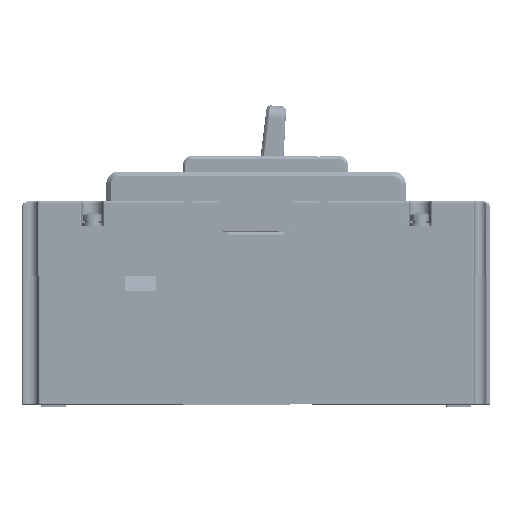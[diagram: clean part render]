
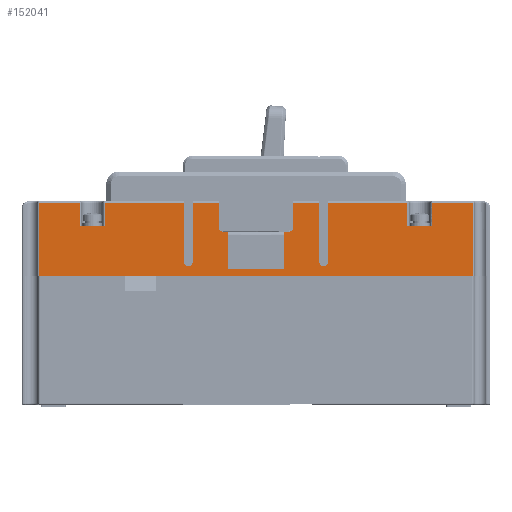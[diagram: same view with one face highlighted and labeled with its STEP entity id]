
A CAD part, left-side view. The second image highlights one B-rep face of the part: STEP entity #152041.
In plain terms, the highlighted planar face has unit normal (-1, 0, 0).
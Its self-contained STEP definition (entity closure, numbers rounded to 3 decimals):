
#119510=DIRECTION('',(0.,-1.,0.));
#119511=VECTOR('',#119510,8.);
#119512=CARTESIAN_POINT('',(-46.,56.5,16.));
#119513=LINE('',#119512,#119511);
#119514=CARTESIAN_POINT('',(-46.,21.7,4.5));
#119515=DIRECTION('',(-1.,0.,0.));
#119516=DIRECTION('',(0.,1.,0.));
#119517=AXIS2_PLACEMENT_3D('',#119514,#119515,#119516);
#119519=DIRECTION('',(0.,0.,1.));
#119520=VECTOR('',#119519,18.8);
#119521=CARTESIAN_POINT('',(-46.,20.2,4.5));
#119522=LINE('',#119521,#119520);
#119523=CARTESIAN_POINT('',(-46.,10.5,15.5));
#119524=DIRECTION('',(-1.,0.,0.));
#119525=DIRECTION('',(0.,1.,0.));
#119526=AXIS2_PLACEMENT_3D('',#119523,#119524,#119525);
#119528=DIRECTION('',(0.,-1.,0.));
#119529=VECTOR('',#119528,1.6);
#119530=CARTESIAN_POINT('',(-46.,10.5,14.));
#119531=LINE('',#119530,#119529);
#119532=DIRECTION('',(0.,0.,-1.));
#119533=VECTOR('',#119532,12.);
#119534=CARTESIAN_POINT('',(-46.,8.9,14.));
#119535=LINE('',#119534,#119533);
#119536=DIRECTION('',(0.,-1.,0.));
#119537=VECTOR('',#119536,17.8);
#119538=CARTESIAN_POINT('',(-46.,8.9,2.));
#119539=LINE('',#119538,#119537);
#119540=DIRECTION('',(0.,-1.,0.));
#119541=VECTOR('',#119540,1.6);
#119542=CARTESIAN_POINT('',(-46.,-8.9,14.));
#119543=LINE('',#119542,#119541);
#119544=CARTESIAN_POINT('',(-46.,-10.5,15.5));
#119545=DIRECTION('',(-1.,0.,0.));
#119546=DIRECTION('',(0.,0.,-1.));
#119547=AXIS2_PLACEMENT_3D('',#119544,#119545,#119546);
#119549=DIRECTION('',(0.,0.,1.));
#119550=VECTOR('',#119549,7.8);
#119551=CARTESIAN_POINT('',(-46.,-12.,15.5));
#119552=LINE('',#119551,#119550);
#119553=CARTESIAN_POINT('',(-46.,-21.7,4.5));
#119554=DIRECTION('',(-1.,0.,0.));
#119555=DIRECTION('',(0.,1.,0.));
#119556=AXIS2_PLACEMENT_3D('',#119553,#119554,#119555);
#119558=DIRECTION('',(0.,0.,1.));
#119559=VECTOR('',#119558,18.8);
#119560=CARTESIAN_POINT('',(-46.,-23.2,4.5));
#119561=LINE('',#119560,#119559);
#119562=DIRECTION('',(0.,-1.,0.));
#119563=VECTOR('',#119562,8.);
#119564=CARTESIAN_POINT('',(-46.,-48.5,16.));
#119565=LINE('',#119564,#119563);
#119861=DIRECTION('',(0.,-1.,0.));
#119862=VECTOR('',#119861,139.101);
#119863=CARTESIAN_POINT('',(-46.,69.551,0.));
#119864=LINE('',#119863,#119862);
#128402=DIRECTION('',(0.,0.,-1.));
#128403=VECTOR('',#128402,23.3);
#128404=CARTESIAN_POINT('',(-46.,69.551,23.3));
#128405=LINE('',#128404,#128403);
#133319=DIRECTION('',(0.,0.,1.));
#133320=VECTOR('',#133319,7.8);
#133321=CARTESIAN_POINT('',(-46.,12.,15.5));
#133322=LINE('',#133321,#133320);
#133328=DIRECTION('',(0.,1.,0.));
#133329=VECTOR('',#133328,8.2);
#133330=CARTESIAN_POINT('',(-46.,12.,23.3));
#133331=LINE('',#133330,#133329);
#133358=DIRECTION('',(0.,0.,1.));
#133359=VECTOR('',#133358,18.8);
#133360=CARTESIAN_POINT('',(-46.,23.2,4.5));
#133361=LINE('',#133360,#133359);
#133362=DIRECTION('',(0.,1.,0.));
#133363=VECTOR('',#133362,25.3);
#133364=CARTESIAN_POINT('',(-46.,23.2,23.3));
#133365=LINE('',#133364,#133363);
#133385=DIRECTION('',(0.,0.,-1.));
#133386=VECTOR('',#133385,7.3);
#133387=CARTESIAN_POINT('',(-46.,48.5,23.3));
#133388=LINE('',#133387,#133386);
#133504=DIRECTION('',(0.,0.,1.));
#133505=VECTOR('',#133504,7.3);
#133506=CARTESIAN_POINT('',(-46.,56.5,16.));
#133507=LINE('',#133506,#133505);
#133512=DIRECTION('',(0.,1.,0.));
#133513=VECTOR('',#133512,13.051);
#133514=CARTESIAN_POINT('',(-46.,56.5,23.3));
#133515=LINE('',#133514,#133513);
#133580=DIRECTION('',(0.,1.,0.));
#133581=VECTOR('',#133580,8.2);
#133582=CARTESIAN_POINT('',(-46.,-20.2,23.3));
#133583=LINE('',#133582,#133581);
#133593=DIRECTION('',(0.,0.,1.));
#133594=VECTOR('',#133593,18.8);
#133595=CARTESIAN_POINT('',(-46.,-20.2,4.5));
#133596=LINE('',#133595,#133594);
#133623=DIRECTION('',(0.,1.,0.));
#133624=VECTOR('',#133623,25.3);
#133625=CARTESIAN_POINT('',(-46.,-48.5,23.3));
#133626=LINE('',#133625,#133624);
#133646=DIRECTION('',(0.,0.,1.));
#133647=VECTOR('',#133646,7.3);
#133648=CARTESIAN_POINT('',(-46.,-48.5,16.));
#133649=LINE('',#133648,#133647);
#133709=DIRECTION('',(0.,0.,-1.));
#133710=VECTOR('',#133709,7.3);
#133711=CARTESIAN_POINT('',(-46.,-56.5,23.3));
#133712=LINE('',#133711,#133710);
#133806=DIRECTION('',(0.,1.,0.));
#133807=VECTOR('',#133806,13.051);
#133808=CARTESIAN_POINT('',(-46.,-69.551,23.3));
#133809=LINE('',#133808,#133807);
#133833=DIRECTION('',(0.,0.,1.));
#133834=VECTOR('',#133833,23.3);
#133835=CARTESIAN_POINT('',(-46.,-69.551,0.));
#133836=LINE('',#133835,#133834);
#136677=DIRECTION('',(0.,0.,-1.));
#136678=VECTOR('',#136677,12.);
#136679=CARTESIAN_POINT('',(-46.,-8.9,14.));
#136680=LINE('',#136679,#136678);
#145006=CARTESIAN_POINT('',(-46.,69.551,0.));
#145007=CARTESIAN_POINT('',(-46.,-69.551,0.));
#145008=VERTEX_POINT('',#145006);
#145009=VERTEX_POINT('',#145007);
#145010=CARTESIAN_POINT('',(-46.,69.551,23.3));
#145011=VERTEX_POINT('',#145010);
#145012=CARTESIAN_POINT('',(-46.,56.5,23.3));
#145013=VERTEX_POINT('',#145012);
#145014=CARTESIAN_POINT('',(-46.,56.5,16.));
#145015=VERTEX_POINT('',#145014);
#145016=CARTESIAN_POINT('',(-46.,48.5,16.));
#145017=VERTEX_POINT('',#145016);
#145018=CARTESIAN_POINT('',(-46.,48.5,23.3));
#145019=VERTEX_POINT('',#145018);
#145020=CARTESIAN_POINT('',(-46.,23.2,23.3));
#145021=VERTEX_POINT('',#145020);
#145022=CARTESIAN_POINT('',(-46.,23.2,4.5));
#145023=VERTEX_POINT('',#145022);
#145024=CARTESIAN_POINT('',(-46.,20.2,4.5));
#145025=VERTEX_POINT('',#145024);
#145026=CARTESIAN_POINT('',(-46.,20.2,23.3));
#145027=VERTEX_POINT('',#145026);
#145028=CARTESIAN_POINT('',(-46.,12.,23.3));
#145029=VERTEX_POINT('',#145028);
#145030=CARTESIAN_POINT('',(-46.,12.,15.5));
#145031=VERTEX_POINT('',#145030);
#145032=CARTESIAN_POINT('',(-46.,10.5,14.));
#145033=VERTEX_POINT('',#145032);
#145034=CARTESIAN_POINT('',(-46.,8.9,14.));
#145035=VERTEX_POINT('',#145034);
#145036=CARTESIAN_POINT('',(-46.,8.9,2.));
#145037=VERTEX_POINT('',#145036);
#145038=CARTESIAN_POINT('',(-46.,-8.9,2.));
#145039=VERTEX_POINT('',#145038);
#145040=CARTESIAN_POINT('',(-46.,-8.9,14.));
#145041=VERTEX_POINT('',#145040);
#145042=CARTESIAN_POINT('',(-46.,-10.5,14.));
#145043=VERTEX_POINT('',#145042);
#145044=CARTESIAN_POINT('',(-46.,-12.,15.5));
#145045=VERTEX_POINT('',#145044);
#145046=CARTESIAN_POINT('',(-46.,-12.,23.3));
#145047=VERTEX_POINT('',#145046);
#145048=CARTESIAN_POINT('',(-46.,-20.2,23.3));
#145049=VERTEX_POINT('',#145048);
#145050=CARTESIAN_POINT('',(-46.,-20.2,4.5));
#145051=VERTEX_POINT('',#145050);
#145052=CARTESIAN_POINT('',(-46.,-23.2,4.5));
#145053=VERTEX_POINT('',#145052);
#145054=CARTESIAN_POINT('',(-46.,-23.2,23.3));
#145055=VERTEX_POINT('',#145054);
#145056=CARTESIAN_POINT('',(-46.,-48.5,23.3));
#145057=VERTEX_POINT('',#145056);
#145058=CARTESIAN_POINT('',(-46.,-48.5,16.));
#145059=VERTEX_POINT('',#145058);
#145060=CARTESIAN_POINT('',(-46.,-56.5,16.));
#145061=VERTEX_POINT('',#145060);
#145062=CARTESIAN_POINT('',(-46.,-56.5,23.3));
#145063=VERTEX_POINT('',#145062);
#145064=CARTESIAN_POINT('',(-46.,-69.551,23.3));
#145065=VERTEX_POINT('',#145064);
#151974=CARTESIAN_POINT('',(-46.,75.,0.));
#151975=DIRECTION('',(-1.,0.,0.));
#151976=DIRECTION('',(0.,-1.,0.));
#151977=AXIS2_PLACEMENT_3D('',#151974,#151975,#151976);
#151978=PLANE('',#151977);
#151980=ORIENTED_EDGE('',*,*,#151979,.F.);
#151982=ORIENTED_EDGE('',*,*,#151981,.F.);
#151984=ORIENTED_EDGE('',*,*,#151983,.F.);
#151986=ORIENTED_EDGE('',*,*,#151985,.F.);
#151988=ORIENTED_EDGE('',*,*,#151987,.T.);
#151990=ORIENTED_EDGE('',*,*,#151989,.F.);
#151992=ORIENTED_EDGE('',*,*,#151991,.F.);
#151994=ORIENTED_EDGE('',*,*,#151993,.F.);
#151996=ORIENTED_EDGE('',*,*,#151995,.T.);
#151998=ORIENTED_EDGE('',*,*,#151997,.T.);
#152000=ORIENTED_EDGE('',*,*,#151999,.F.);
#152002=ORIENTED_EDGE('',*,*,#152001,.F.);
#152004=ORIENTED_EDGE('',*,*,#152003,.T.);
#152006=ORIENTED_EDGE('',*,*,#152005,.T.);
#152008=ORIENTED_EDGE('',*,*,#152007,.T.);
#152010=ORIENTED_EDGE('',*,*,#152009,.T.);
#152012=ORIENTED_EDGE('',*,*,#152011,.F.);
#152014=ORIENTED_EDGE('',*,*,#152013,.T.);
#152016=ORIENTED_EDGE('',*,*,#152015,.T.);
#152018=ORIENTED_EDGE('',*,*,#152017,.T.);
#152020=ORIENTED_EDGE('',*,*,#152019,.F.);
#152022=ORIENTED_EDGE('',*,*,#152021,.F.);
#152024=ORIENTED_EDGE('',*,*,#152023,.T.);
#152026=ORIENTED_EDGE('',*,*,#152025,.T.);
#152028=ORIENTED_EDGE('',*,*,#152027,.F.);
#152030=ORIENTED_EDGE('',*,*,#152029,.F.);
#152032=ORIENTED_EDGE('',*,*,#152031,.T.);
#152034=ORIENTED_EDGE('',*,*,#152033,.F.);
#152036=ORIENTED_EDGE('',*,*,#152035,.F.);
#152038=ORIENTED_EDGE('',*,*,#152037,.F.);
#152039=EDGE_LOOP('',(#151980,#151982,#151984,#151986,#151988,#151990,#151992,
#151994,#151996,#151998,#152000,#152002,#152004,#152006,#152008,#152010,#152012,
#152014,#152016,#152018,#152020,#152022,#152024,#152026,#152028,#152030,#152032,
#152034,#152036,#152038));
#152040=FACE_OUTER_BOUND('',#152039,.F.);
#152041=ADVANCED_FACE('',(#152040),#151978,.T.);
#119518=CIRCLE('',#119517,1.5);
#119527=CIRCLE('',#119526,1.5);
#119548=CIRCLE('',#119547,1.5);
#119557=CIRCLE('',#119556,1.5);
#151979=EDGE_CURVE('',#145008,#145009,#119864,.T.);
#151981=EDGE_CURVE('',#145011,#145008,#128405,.T.);
#151983=EDGE_CURVE('',#145013,#145011,#133515,.T.);
#151985=EDGE_CURVE('',#145015,#145013,#133507,.T.);
#151987=EDGE_CURVE('',#145015,#145017,#119513,.T.);
#151989=EDGE_CURVE('',#145019,#145017,#133388,.T.);
#151991=EDGE_CURVE('',#145021,#145019,#133365,.T.);
#151993=EDGE_CURVE('',#145023,#145021,#133361,.T.);
#151995=EDGE_CURVE('',#145023,#145025,#119518,.T.);
#151997=EDGE_CURVE('',#145025,#145027,#119522,.T.);
#151999=EDGE_CURVE('',#145029,#145027,#133331,.T.);
#152001=EDGE_CURVE('',#145031,#145029,#133322,.T.);
#152003=EDGE_CURVE('',#145031,#145033,#119527,.T.);
#152005=EDGE_CURVE('',#145033,#145035,#119531,.T.);
#152007=EDGE_CURVE('',#145035,#145037,#119535,.T.);
#152009=EDGE_CURVE('',#145037,#145039,#119539,.T.);
#152011=EDGE_CURVE('',#145041,#145039,#136680,.T.);
#152013=EDGE_CURVE('',#145041,#145043,#119543,.T.);
#152015=EDGE_CURVE('',#145043,#145045,#119548,.T.);
#152017=EDGE_CURVE('',#145045,#145047,#119552,.T.);
#152019=EDGE_CURVE('',#145049,#145047,#133583,.T.);
#152021=EDGE_CURVE('',#145051,#145049,#133596,.T.);
#152023=EDGE_CURVE('',#145051,#145053,#119557,.T.);
#152025=EDGE_CURVE('',#145053,#145055,#119561,.T.);
#152027=EDGE_CURVE('',#145057,#145055,#133626,.T.);
#152029=EDGE_CURVE('',#145059,#145057,#133649,.T.);
#152031=EDGE_CURVE('',#145059,#145061,#119565,.T.);
#152033=EDGE_CURVE('',#145063,#145061,#133712,.T.);
#152035=EDGE_CURVE('',#145065,#145063,#133809,.T.);
#152037=EDGE_CURVE('',#145009,#145065,#133836,.T.);
